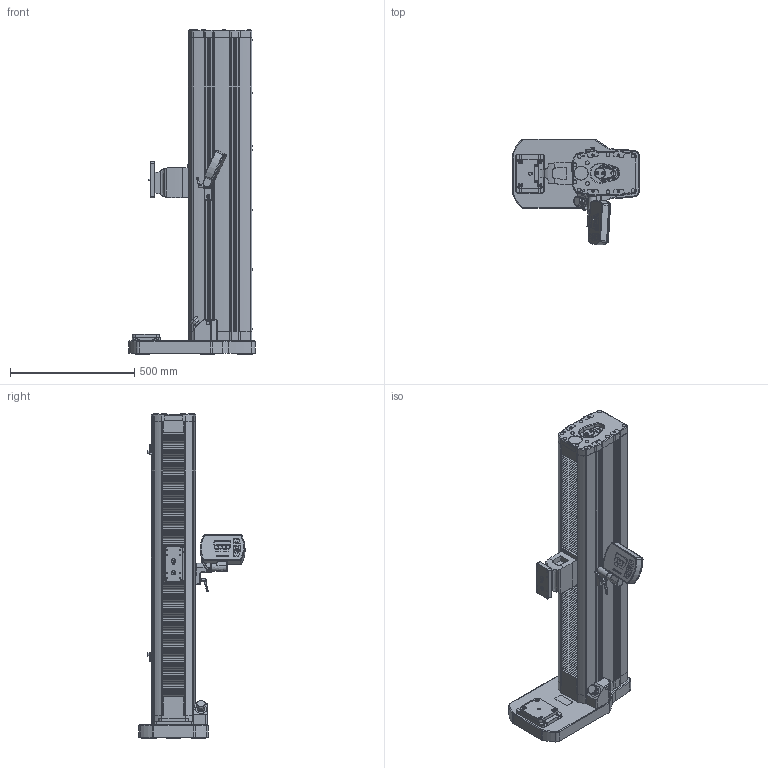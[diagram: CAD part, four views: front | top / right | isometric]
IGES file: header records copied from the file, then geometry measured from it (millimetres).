
Global section: file name: No Iges File Name specified; native system: Autodesk Inventor 2010; preprocessor: AutoDesk Inventor Iges Exporter R2010; author: mlampen; date: 20170418.125517; units: inch
Bounding box: 508 x 427.27 x 1305.45 mm (x, y, z)
Volume: 61129121.7 mm3; surface area: 2227590 mm2
Topology: 29 solids, 34 shells, 7194 faces, 18726 edges, 12071 vertices
Faces by surface type: plane 3579, bspline 1377, cylinder 969, revolution 939, torus 140, cone 138, sphere 52
Full cylindrical faces by diameter (mm): 2.02 x4, 2.845 x4, 5.172 x3, 6.35 x4
